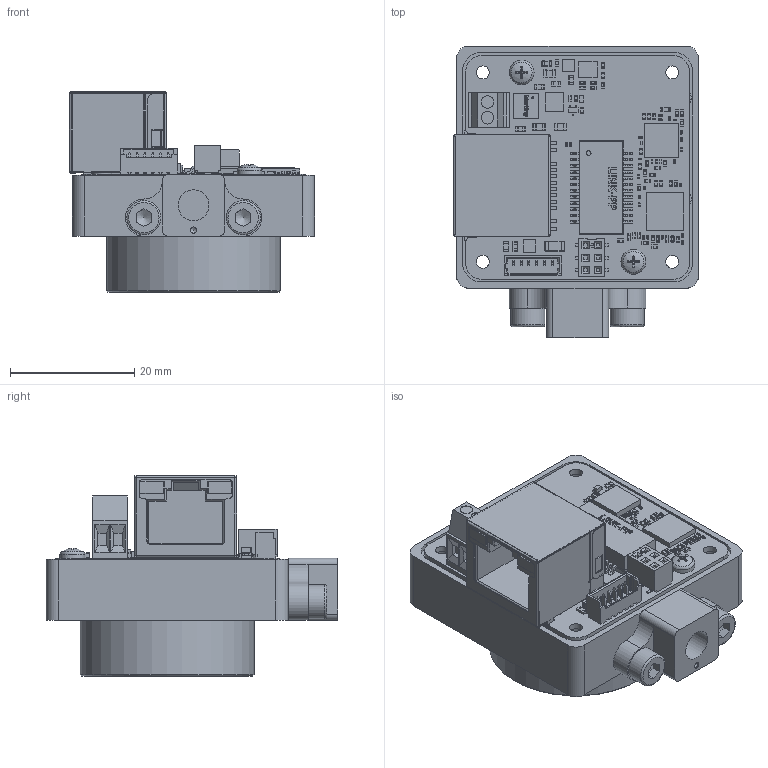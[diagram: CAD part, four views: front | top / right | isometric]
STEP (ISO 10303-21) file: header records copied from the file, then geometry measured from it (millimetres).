
FILE_DESCRIPTION(/* description */ (''),/* implementation_level */ '2;1');
FILE_NAME(/* name */ 'KSM_308-24-09-00-00_ZB C-MountKamera_GigE-4SB_IMX676.stp',/* time_stamp */ '2025-10-15T13:18:22+02:00',/* author */ ('khw'),/* organization */ ('TIS/ Germany'),/* preprocessor_version */ 'ST-DEVELOPER v20',/* originating_system */ 'Autodesk Inventor 2025',/* authorisation */ '520025 mm^3');
FILE_SCHEMA (('AUTOMOTIVE_DESIGN { 1 0 10303 214 3 1 1 }'));
Length unit declared in the file: millimetre
Products named in the file (4): KSM_308-24-09-00-00_ZB C-MountKamera_GigE-4SB_IMX676; 2_308-24-09-00-00_ZB C-MountKamera_GigE-4SB_IMX676; TripodAdapter 14-20-UNC; Zylinderschraube M3x6
Assembly tree (4 placements, depth 2):
  KSM_308-24-09-00-00_ZB C-MountKamera_GigE-4SB_IMX676
    2_308-24-09-00-00_ZB C-MountKamera_GigE-4SB_IMX676
    TripodAdapter 14-20-UNC
    Zylinderschraube M3x6  x2
Bounding box: 39.49 x 47 x 32.26 mm (x, y, z)
Volume: 16540.5 mm3; surface area: 14318.7 mm2
Topology: 9 solids, 9 shells, 7223 faces, 17179 edges, 9351 vertices
Faces by surface type: cylinder 2957, plane 2859, torus 670, sphere 666, cone 37, bspline 34
Full cylindrical faces by diameter (mm): 0.3 x1, 0.5 x6, 0.739 x1, 1 x1, 1.05 x2, 1.2 x2, 1.567 x2, 2.032 x2, 2.1 x4, 2.459 x8, 3 x2, 3.2 x2, 4.978 x1, 5.5 x2, 24.536 x1, 28 x1
Entity records: 207350 total; most frequent: DIRECTION 36752, CARTESIAN_POINT 34649, ORIENTED_EDGE 32938, EDGE_CURVE 16469, AXIS2_PLACEMENT_3D 13220, LINE 10312, VECTOR 10312, VERTEX_POINT 9327
